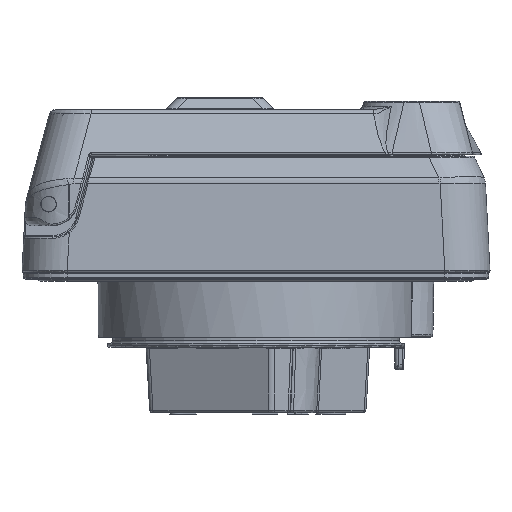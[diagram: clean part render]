
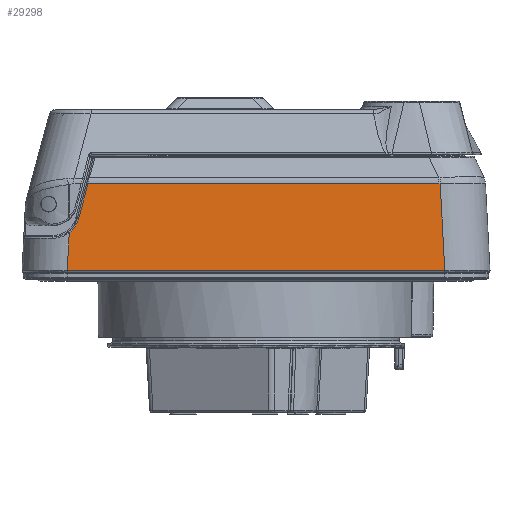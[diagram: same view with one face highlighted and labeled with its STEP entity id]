
A CAD part, left-side view. The second image highlights one B-rep face of the part: STEP entity #29298.
In plain terms, the highlighted planar face has unit normal (-0.999, 0, 0.052).
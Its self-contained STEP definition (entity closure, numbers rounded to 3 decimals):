
#6565=CARTESIAN_POINT('',(-44.983,-37.496,
13.216));
#6570=CARTESIAN_POINT('',(-44.079,-36.591,
30.472));
#6586=DIRECTION('',(0.,1.,0.));
#6587=VECTOR('',#6586,74.992);
#6588=CARTESIAN_POINT('',(-44.983,-37.496,
13.216));
#6589=LINE('5574',#6588,#6587);
#6593=CARTESIAN_POINT('',(-44.442,35.216,23.544));
#6594=CARTESIAN_POINT('',(-44.457,35.291,23.264));
#6595=CARTESIAN_POINT('',(-44.485,35.485,22.723));
#6596=CARTESIAN_POINT('',(-44.525,35.908,21.959));
#6597=CARTESIAN_POINT('',(-44.561,36.45,21.277));
#6598=CARTESIAN_POINT('',(-44.581,36.874,20.892));
#6599=CARTESIAN_POINT('',(-44.59,37.103,20.716));
#6604=DIRECTION('',(-0.051,0.258,-0.965));
#6605=VECTOR('',#6604,7.196);
#6606=CARTESIAN_POINT('',(-44.078,33.356,30.486));
#6607=LINE('5528',#6606,#6605);
#6611=DIRECTION('',(0.,-1.,0.));
#6612=VECTOR('',#6611,69.658);
#6613=CARTESIAN_POINT('',(-44.078,33.356,30.486));
#6614=LINE('5538',#6613,#6612);
#6618=CARTESIAN_POINT('',(-44.078,-36.302,
30.486));
#6619=CARTESIAN_POINT('',(-44.078,-36.333,
30.486));
#6620=CARTESIAN_POINT('',(-44.078,-36.396,
30.485));
#6621=CARTESIAN_POINT('',(-44.079,-36.493,
30.48));
#6622=CARTESIAN_POINT('',(-44.079,-36.558,
30.475));
#6623=CARTESIAN_POINT('',(-44.079,-36.591,
30.472));
#6628=DIRECTION('',(0.052,0.052,0.997));
#6629=VECTOR('',#6628,17.304);
#6630=CARTESIAN_POINT('',(-44.983,-37.496,
13.216));
#6631=LINE('5577',#6630,#6629);
#6635=CARTESIAN_POINT('',(-44.983,37.496,13.216));
#6665=CARTESIAN_POINT('',(-44.59,37.103,20.716));
#6676=DIRECTION('',(-0.052,0.052,-0.997));
#6677=VECTOR('',#6676,7.521);
#6678=CARTESIAN_POINT('',(-44.59,37.103,20.716));
#6679=LINE('5582',#6678,#6677);
#21065=VERTEX_POINT('',#6570);
#21067=VERTEX_POINT('',#6618);
#21122=VERTEX_POINT('',#6665);
#21124=VERTEX_POINT('',#6593);
#21126=CARTESIAN_POINT('',(-44.078,33.356,
30.486));
#21127=VERTEX_POINT('',#21126);
#21140=VERTEX_POINT('',#6635);
#21161=VERTEX_POINT('',#6565);
#29279=CARTESIAN_POINT('',(-45.,46.5,12.9));
#29280=DIRECTION('',(-0.999,0.,0.052));
#29281=DIRECTION('',(0.,-1.,0.));
#29282=AXIS2_PLACEMENT_3D('',#29279,#29280,#29281);
#29283=PLANE('3912',#29282);
#29284=ORIENTED_EDGE('5574',*,*,#28475,.T.);
#29286=ORIENTED_EDGE('5582',*,*,#29285,.F.);
#29288=ORIENTED_EDGE('5526',*,*,#29287,.F.);
#29290=ORIENTED_EDGE('5528',*,*,#29289,.F.);
#29292=ORIENTED_EDGE('5538',*,*,#29291,.T.);
#29294=ORIENTED_EDGE('5470',*,*,#29293,.T.);
#29295=ORIENTED_EDGE('5577',*,*,#29264,.F.);
#29296=EDGE_LOOP('3912',(#29284,#29286,#29288,#29290,#29292,#29294,#29295));
#29297=FACE_OUTER_BOUND('3912',#29296,.F.);
#6600=B_SPLINE_CURVE_WITH_KNOTS('5526',3,(#6593,#6594,#6595,#6596,#6597,#6598,
#6599),.UNSPECIFIED.,.F.,.F.,(4,1,1,1,4),(0.,0.25,0.5,0.75,1.),
.UNSPECIFIED.);
#6624=B_SPLINE_CURVE_WITH_KNOTS('5470',3,(#6618,#6619,#6620,#6621,#6622,#6623),
.UNSPECIFIED.,.F.,.F.,(4,1,1,4),(0.,0.333,0.667,1.),
.UNSPECIFIED.);
#28475=EDGE_CURVE('5574',#21161,#21140,#6589,.T.);
#29264=EDGE_CURVE('5577',#21161,#21065,#6631,.T.);
#29285=EDGE_CURVE('5582',#21122,#21140,#6679,.T.);
#29287=EDGE_CURVE('5526',#21124,#21122,#6600,.T.);
#29289=EDGE_CURVE('5528',#21127,#21124,#6607,.T.);
#29291=EDGE_CURVE('5538',#21127,#21067,#6614,.T.);
#29293=EDGE_CURVE('5470',#21067,#21065,#6624,.T.);
#29298=ADVANCED_FACE('3912',(#29297),#29283,.T.);
